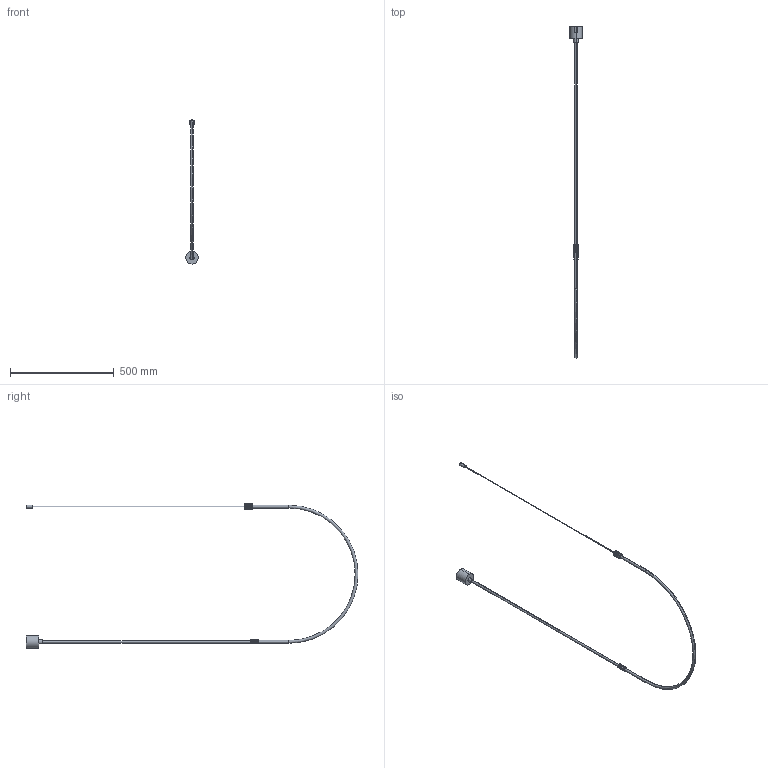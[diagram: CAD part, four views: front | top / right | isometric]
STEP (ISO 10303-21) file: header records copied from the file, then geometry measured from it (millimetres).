
FILE_DESCRIPTION (( 'STEP AP214' ), '1' );
FILE_NAME ('CRAM_C1329.STEP', '2024-09-18T07:15:58', ( '' ), ( '' ), 'SwSTEP 2.0', 'SolidWorks 2018', '' );
FILE_SCHEMA (( 'AUTOMOTIVE_DESIGN' ));
Length unit declared in the file: millimetre
Products named in the file (1): CRAM_C1329
Bounding box: 60 x 1596.75 x 693.04 mm (x, y, z)
Volume: 527054.4 mm3; surface area: 137388.4 mm2
Topology: 8 solids, 8 shells, 236 faces, 653 edges, 434 vertices
Faces by surface type: plane 167, cylinder 67, torus 2
Entity records: 7598 total; most frequent: CARTESIAN_POINT 1324, ORIENTED_EDGE 1306, DIRECTION 1263, EDGE_CURVE 653, VECTOR 517, LINE 517, VERTEX_POINT 434, AXIS2_PLACEMENT_3D 373
